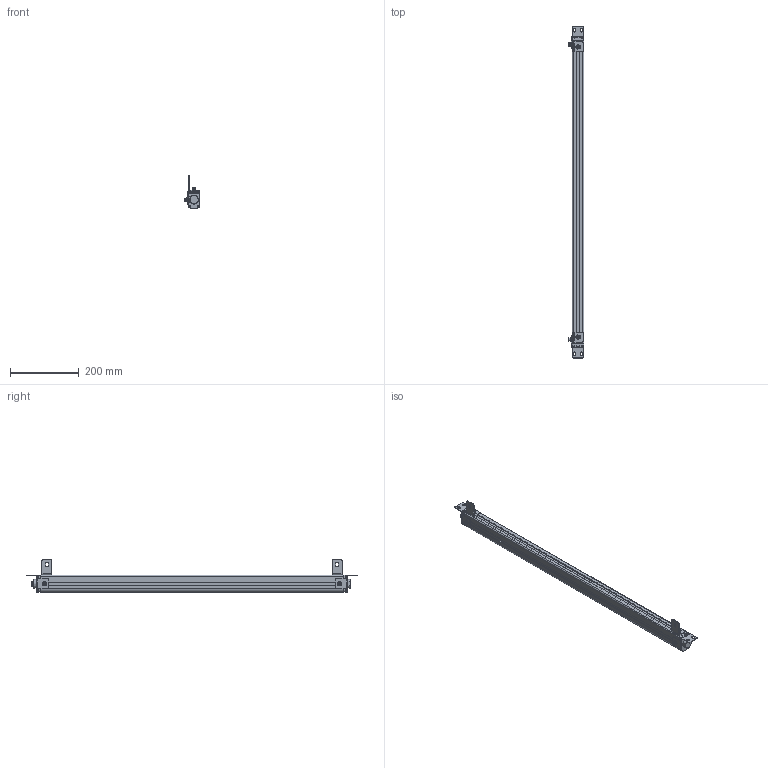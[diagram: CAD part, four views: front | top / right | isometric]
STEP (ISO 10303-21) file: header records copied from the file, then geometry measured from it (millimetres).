
FILE_DESCRIPTION((''),'2;1');
FILE_NAME('ESN--000_ASM','2021-08-11T16:24:58',('18720616900'),(''),'CREO PARAMETRIC BY PTC INC, 2019010','CREO PARAMETRIC BY PTC INC, 2019010','');
FILE_SCHEMA(('CONFIG_CONTROL_DESIGN'));
Length unit declared in the file: millimetre
Products named in the file (22): 00; 000; _0001; 4000; 4--0001; ESN_40001_ASM; L10001; M6-8--0001; M6-1--00; M6-1-00; M6-80001_ASM; L1--0001_ASM; _0002; 0005; ST-3-120001; H1--000; H1--0001_ASM; H1--0003_ASM; ESN--000_ASM
Assembly tree (34 placements, depth 4):
  ESN--000_ASM
    00
    000
    _0001
    000
    ESN_40001_ASM
      4000
      4--0001  x4
    L1--0001_ASM  x2
      L10001
      M6-80001_ASM
        M6-8--0001
        M6-1--00
        M6-1-00
        00
    _0002
    0005
    ST-3-120001  x8
    H1--0001_ASM
      H1--000
      M6-80001_ASM
        M6-8--0001
        M6-1--00
        M6-1-00
        00
    H1--0003_ASM
      H1--000
      M6-80001_ASM
        M6-8--0001
        M6-1--00
        M6-1-00
        00
Bounding box: 46.5 x 967 x 94.95 mm (x, y, z)
Volume: 1376706.6 mm3; surface area: 293816.8 mm2
Topology: 39 solids, 39 shells, 1727 faces, 4555 edges, 2925 vertices
Faces by surface type: plane 541, cylinder 404, bspline 362, cone 291, torus 105, sphere 24
Entity records: 45714 total; most frequent: CARTESIAN_POINT 24222, ORIENTED_EDGE 4766, DIRECTION 3842, EDGE_CURVE 2383, VERTEX_POINT 1546, AXIS2_PLACEMENT_3D 1400, VECTOR 1042, LINE 1042
